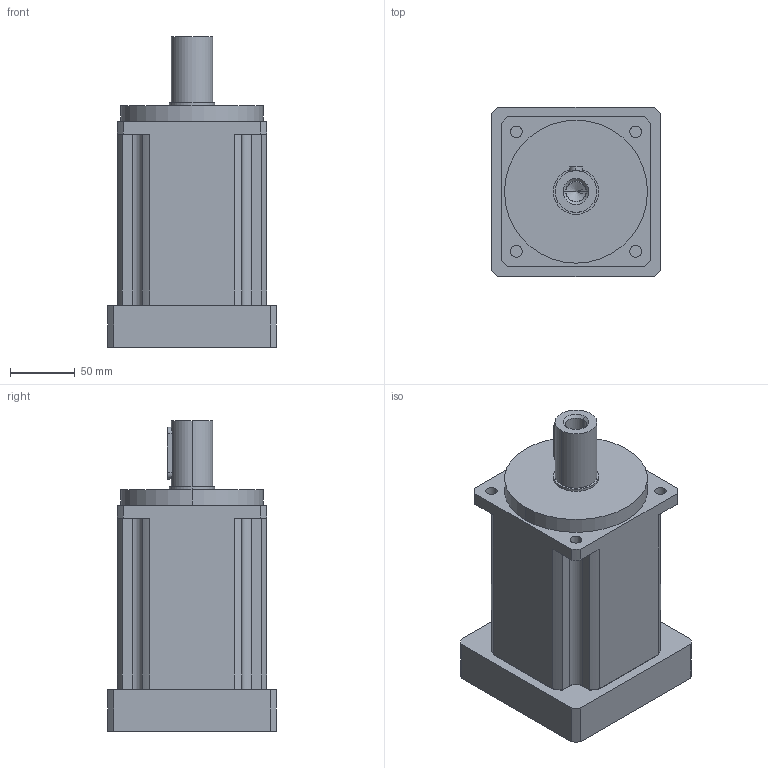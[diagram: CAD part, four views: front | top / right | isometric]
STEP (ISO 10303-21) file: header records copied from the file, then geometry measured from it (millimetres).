
FILE_DESCRIPTION (( 'STEP AP203' ), '1' );
FILE_NAME ('IB115L2-i-P2-S2-22-58-110-145-M8.STEP', '2016-01-04T12:33:36', ( 'User' ), ( 'china' ), 'SwSTEP 2.0', 'SolidWorks 2014', '' );
FILE_SCHEMA (( 'CONFIG_CONTROL_DESIGN' ));
Length unit declared in the file: millimetre
Products named in the file (1): IB115L2-i-P2-S2-22-58-110-145-M8
Bounding box: 130 x 130 x 239 mm (x, y, z)
Volume: 2268159.5 mm3; surface area: 134314.1 mm2
Topology: 1 solids, 1 shells, 133 faces, 321 edges, 197 vertices
Faces by surface type: cylinder 73, plane 36, cone 12, torus 12
Entity records: 4024 total; most frequent: CARTESIAN_POINT 793, DIRECTION 701, ORIENTED_EDGE 622, EDGE_CURVE 311, AXIS2_PLACEMENT_3D 275, VERTEX_POINT 197, EDGE_LOOP 158, VECTOR 151
